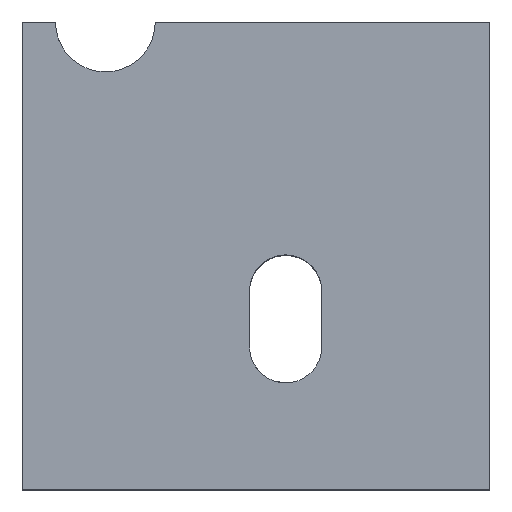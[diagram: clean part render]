
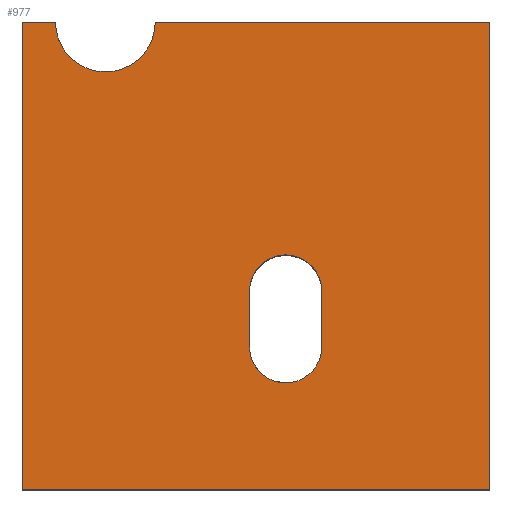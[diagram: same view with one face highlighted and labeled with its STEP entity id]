
A CAD part, top view. The second image highlights one B-rep face of the part: STEP entity #977.
In plain terms, the highlighted planar face has unit normal (0, 0, 1).
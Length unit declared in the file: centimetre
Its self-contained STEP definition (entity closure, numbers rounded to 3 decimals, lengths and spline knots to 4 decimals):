
#7 = VECTOR ( 'NONE', #153, 100. ) ;
#27 = VERTEX_POINT ( 'NONE', #2274 ) ;
#34 = CARTESIAN_POINT ( 'NONE',  ( 563.4862, 424.3899, 1000. ) ) ;
#42 = VERTEX_POINT ( 'NONE', #1676 ) ;
#61 = CARTESIAN_POINT ( 'NONE',  ( 0., 1000., 1000. ) ) ;
#73 = LINE ( 'NONE', #61, #2397 ) ;
#101 = CARTESIAN_POINT ( 'NONE',  ( 0., 0., 1000. ) ) ;
#102 = LINE ( 'NONE', #1647, #192 ) ;
#137 = CIRCLE ( 'NONE', #1301, 106.7981 ) ;
#153 = DIRECTION ( 'NONE',  ( 1., 0., 0. ) ) ;
#177 = VERTEX_POINT ( 'NONE', #1516 ) ;
#192 = VECTOR ( 'NONE', #2414, 100. ) ;
#222 = VERTEX_POINT ( 'NONE', #447 ) ;
#282 = DIRECTION ( 'NONE',  ( 0., 0., 1. ) ) ;
#330 = CIRCLE ( 'NONE', #2251, 77.155 ) ;
#343 = ORIENTED_EDGE ( 'NONE', *, *, #379, .T. ) ;
#349 = EDGE_CURVE ( 'NONE', #177, #27, #2190, .T. ) ;
#367 = DIRECTION ( 'NONE',  ( 0., -1., 0. ) ) ;
#379 = EDGE_CURVE ( 'NONE', #636, #222, #73, .T. ) ;
#385 = VECTOR ( 'NONE', #1315, 100. ) ;
#390 = CARTESIAN_POINT ( 'NONE',  ( 486.3312, 304.4755, 1000. ) ) ;
#447 = CARTESIAN_POINT ( 'NONE',  ( 0., 1000., 1000. ) ) ;
#448 = DIRECTION ( 'NONE',  ( 0., 0., -1. ) ) ;
#463 = VERTEX_POINT ( 'NONE', #559 ) ;
#470 = DIRECTION ( 'NONE',  ( -1., 0., 0. ) ) ;
#477 = ORIENTED_EDGE ( 'NONE', *, *, #2353, .T. ) ;
#491 = FACE_OUTER_BOUND ( 'NONE', #684, .T. ) ;
#500 = DIRECTION ( 'NONE',  ( 1., 0., 0. ) ) ;
#516 = DIRECTION ( 'NONE',  ( 1., 0., 0. ) ) ;
#555 = DIRECTION ( 'NONE',  ( 0., -1., 0. ) ) ;
#559 = CARTESIAN_POINT ( 'NONE',  ( 284.3059, 1000., 1000. ) ) ;
#614 = CARTESIAN_POINT ( 'NONE',  ( 640.6412, 424.3899, 1000. ) ) ;
#636 = VERTEX_POINT ( 'NONE', #1140 ) ;
#677 = DIRECTION ( 'NONE',  ( -1., 0., 0. ) ) ;
#684 = EDGE_LOOP ( 'NONE', ( #1087, #343, #730, #1737, #1889, #1961 ) ) ;
#710 = PLANE ( 'NONE',  #1003 ) ;
#712 = VERTEX_POINT ( 'NONE', #614 ) ;
#730 = ORIENTED_EDGE ( 'NONE', *, *, #2400, .T. ) ;
#851 = DIRECTION ( 'NONE',  ( -1., 0., 0. ) ) ;
#872 = EDGE_CURVE ( 'NONE', #1679, #177, #1683, .T. ) ;
#885 = CARTESIAN_POINT ( 'NONE',  ( 0., 0., 1000. ) ) ;
#907 = CARTESIAN_POINT ( 'NONE',  ( 0., 1000., 1000. ) ) ;
#923 = VERTEX_POINT ( 'NONE', #1244 ) ;
#958 = CARTESIAN_POINT ( 'NONE',  ( 640.6412, 424.3899, 1000. ) ) ;
#977 = ADVANCED_FACE ( 'NONE', ( #491, #1858 ), #710, .T. ) ;
#1003 = AXIS2_PLACEMENT_3D ( 'NONE', #101, #1252, #516 ) ;
#1060 = DIRECTION ( 'NONE',  ( 0., 0., -1. ) ) ;
#1066 = CARTESIAN_POINT ( 'NONE',  ( 177.5078, 1000., 1000. ) ) ;
#1087 = ORIENTED_EDGE ( 'NONE', *, *, #1962, .F. ) ;
#1114 = LINE ( 'NONE', #390, #385 ) ;
#1140 = CARTESIAN_POINT ( 'NONE',  ( 70.7096, 1000., 1000. ) ) ;
#1200 = EDGE_CURVE ( 'NONE', #712, #42, #2085, .T. ) ;
#1244 = CARTESIAN_POINT ( 'NONE',  ( 486.3312, 424.3899, 1000. ) ) ;
#1252 = DIRECTION ( 'NONE',  ( 0., 0., 1. ) ) ;
#1301 = AXIS2_PLACEMENT_3D ( 'NONE', #1066, #282, #500 ) ;
#1311 = EDGE_LOOP ( 'NONE', ( #1455, #477, #2445, #1974 ) ) ;
#1315 = DIRECTION ( 'NONE',  ( 0., 1., 0. ) ) ;
#1345 = VECTOR ( 'NONE', #367, 100. ) ;
#1444 = EDGE_CURVE ( 'NONE', #923, #712, #330, .T. ) ;
#1448 = CARTESIAN_POINT ( 'NONE',  ( 563.4862, 304.4755, 1000. ) ) ;
#1455 = ORIENTED_EDGE ( 'NONE', *, *, #1458, .T. ) ;
#1458 = EDGE_CURVE ( 'NONE', #42, #1703, #2092, .T. ) ;
#1465 = CARTESIAN_POINT ( 'NONE',  ( 486.3312, 304.4755, 1000. ) ) ;
#1516 = CARTESIAN_POINT ( 'NONE',  ( 1000., 0., 1000. ) ) ;
#1647 = CARTESIAN_POINT ( 'NONE',  ( 0., 1000., 1000. ) ) ;
#1656 = CARTESIAN_POINT ( 'NONE',  ( 0., 0., 1000. ) ) ;
#1676 = CARTESIAN_POINT ( 'NONE',  ( 640.6412, 304.4755, 1000. ) ) ;
#1679 = VERTEX_POINT ( 'NONE', #885 ) ;
#1683 = LINE ( 'NONE', #1656, #7 ) ;
#1703 = VERTEX_POINT ( 'NONE', #1465 ) ;
#1737 = ORIENTED_EDGE ( 'NONE', *, *, #872, .T. ) ;
#1771 = CARTESIAN_POINT ( 'NONE',  ( 1000., 1000., 1000. ) ) ;
#1814 = VECTOR ( 'NONE', #555, 100. ) ;
#1840 = AXIS2_PLACEMENT_3D ( 'NONE', #1448, #448, #851 ) ;
#1858 = FACE_BOUND ( 'NONE', #1311, .T. ) ;
#1889 = ORIENTED_EDGE ( 'NONE', *, *, #349, .T. ) ;
#1961 = ORIENTED_EDGE ( 'NONE', *, *, #2446, .T. ) ;
#1962 = EDGE_CURVE ( 'NONE', #636, #463, #137, .T. ) ;
#1974 = ORIENTED_EDGE ( 'NONE', *, *, #1200, .T. ) ;
#2085 = LINE ( 'NONE', #958, #1814 ) ;
#2092 = CIRCLE ( 'NONE', #1840, 77.155 ) ;
#2152 = VECTOR ( 'NONE', #2366, 100. ) ;
#2190 = LINE ( 'NONE', #1771, #2152 ) ;
#2251 = AXIS2_PLACEMENT_3D ( 'NONE', #34, #1060, #677 ) ;
#2274 = CARTESIAN_POINT ( 'NONE',  ( 1000., 1000., 1000. ) ) ;
#2353 = EDGE_CURVE ( 'NONE', #1703, #923, #1114, .T. ) ;
#2366 = DIRECTION ( 'NONE',  ( 0., 1., 0. ) ) ;
#2397 = VECTOR ( 'NONE', #470, 100. ) ;
#2400 = EDGE_CURVE ( 'NONE', #222, #1679, #2444, .T. ) ;
#2414 = DIRECTION ( 'NONE',  ( -1., 0., 0. ) ) ;
#2444 = LINE ( 'NONE', #907, #1345 ) ;
#2445 = ORIENTED_EDGE ( 'NONE', *, *, #1444, .T. ) ;
#2446 = EDGE_CURVE ( 'NONE', #27, #463, #102, .T. ) ;
